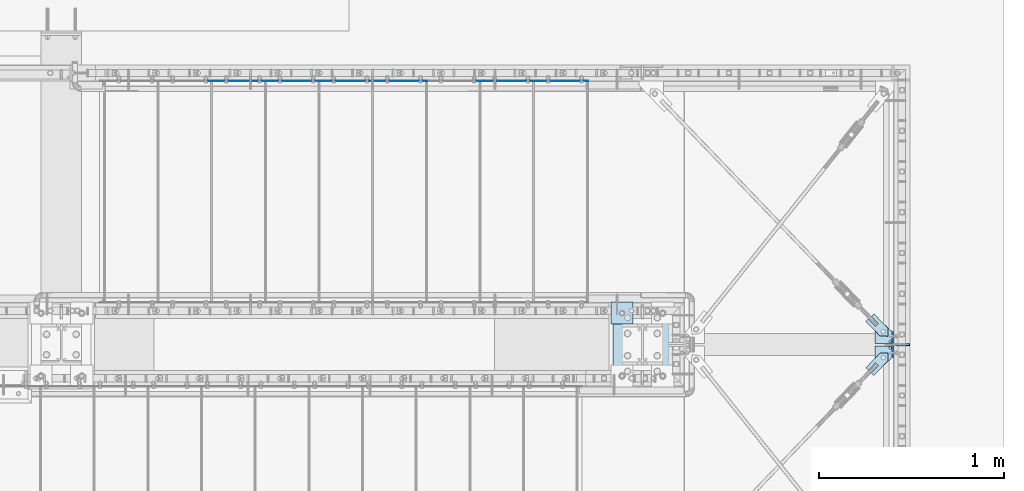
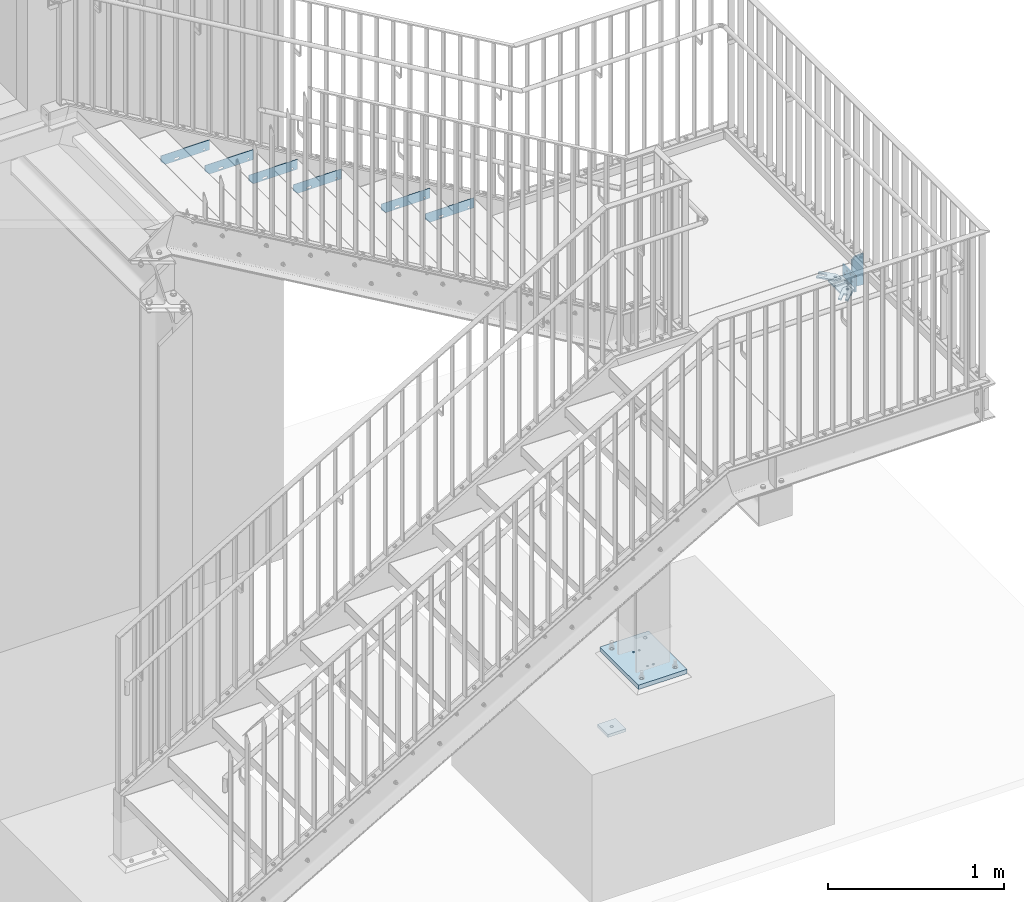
# One storey, part 25 of 145: 14 plates, 43 openings.
"""IFC2X3 building model written with IfcOpenShell, lengths in millimetres."""

from ifc_helpers import new_model, entity, si_unit, converted_unit, point, frame, frame_2d, origin, origin_with_axes, origin_2d_with_axis, place, context, project, spatial, polyline, circle_curve, line_curve, trimmed, segment, composite_curve, circle, outline, extrude, material, layer, layer_set, element, save


model = new_model("IFC2X3")

# Units and contexts
model_context = context("Model", 3, precision=1e-09, world=origin_with_axes())
ifc_project = project(units=[si_unit("LENGTHUNIT", "METRE", prefix="MILLI"), si_unit("AREAUNIT", "SQUARE_METRE"), si_unit("VOLUMEUNIT", "CUBIC_METRE"), converted_unit("PLANEANGLEUNIT", "DEGREE", entity("IfcPlaneAngleMeasure", 0.01745329), si_unit("PLANEANGLEUNIT", "RADIAN"), dimensions=[0, 0, 0, 0, 0, 0, 0])], contexts=[model_context])

# Site, building, storey
site_placement = place(None, origin_with_axes())
site = spatial("IfcSite", under=ifc_project, at=site_placement, Name="BZ1 Grund- und Mittelschule 85716 Unterschlei?heim", CompositionType="ELEMENT")
building_placement = place(site_placement, origin_with_axes())
building = spatial("IfcBuilding", under=site, at=building_placement, Name="Struktur 1", CompositionType="ELEMENT")
storey_placement = place(building_placement, origin_with_axes())
storey = spatial("IfcBuildingStorey", under=building, at=storey_placement, Name="Default Storey", CompositionType="ELEMENT", Elevation=0.0)

# Plate, openings
ifc_material = material(Name="S235JR")
ifc_layer_1 = layer(ifc_material, 10.0)
ifc_layer_set_1 = layer_set([ifc_layer_1], Name="S235JR")
plate_1_placement = place(None, frame((21560.84472732, -1695.002, 1461.1363644), z_axis=(-1.0, 0.0, 0.0), x_axis=(0.0, -1.0, 0.0)))
plate_1 = element("IfcPlate", 1, at=plate_1_placement, inside=storey, material=ifc_layer_set_1, Name="-", ObjectType="-", context=model_context, shape_type="SweptSolid", body=[
    extrude(outline(polyline([(-70.0, -57.5), (70.0, -57.5), (70.0, 57.5), (-70.0, 57.5), (-70.0, -57.5)])), origin_with_axes(), (0.0, 0.0, -1.0), 10.0),
])
opening_1_placement = place(plate_1_placement, frame((-19.5, 42.501, -10.5), z_axis=(0.0, 0.0, -1.0), x_axis=(-1.0, 0.0, 0.0)))
element("IfcOpeningElement", 2, at=opening_1_placement, cuts=plate_1, ObjectType="Opening", context=model_context, shape_type="SweptSolid", body=[
    extrude(circle(Radius=6.001, at=frame_2d((0.0, -6.001), x_axis=(1.0, 0.0))), origin(), (0.0, 0.0, -1.0), 11.0),
])
opening_2_placement = place(plate_1_placement, frame((19.5, 42.501, -10.5), z_axis=(0.0, 0.0, -1.0), x_axis=(-1.0, 0.0, 0.0)))
element("IfcOpeningElement", 3, at=opening_2_placement, cuts=plate_1, ObjectType="Opening", context=model_context, shape_type="SweptSolid", body=[
    extrude(circle(Radius=6.001, at=frame_2d((0.0, -6.001), x_axis=(1.0, 0.0))), origin(), (0.0, 0.0, -1.0), 11.0),
])
opening_3_placement = place(plate_1_placement, frame((37.999, 2.5, 0.5), z_axis=(0.0, 0.0, 1.0), x_axis=(1.0, 0.0, 0.0)))
element("IfcOpeningElement", 4, at=opening_3_placement, cuts=plate_1, ObjectType="Opening", context=model_context, shape_type="SweptSolid", body=[
    extrude(circle(Radius=7.001, at=frame_2d((7.001, 0.0), x_axis=(1.0, 0.0))), origin(), (0.0, 0.0, -1.0), 11.0),
])
opening_4_placement = place(plate_1_placement, frame((-52.001, 2.5, 0.5), z_axis=(0.0, 0.0, 1.0), x_axis=(1.0, 0.0, 0.0)))
element("IfcOpeningElement", 5, at=opening_4_placement, cuts=plate_1, ObjectType="Opening", context=model_context, shape_type="SweptSolid", body=[
    extrude(circle(Radius=7.001, at=frame_2d((7.001, 0.0), x_axis=(1.0, 0.0))), origin(), (0.0, 0.0, -1.0), 11.0),
])

plate_2_placement = place(None, frame((21461.809681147, -1528.368609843, 1433.6363644), z_axis=(0.0, 0.0, -1.0), x_axis=(0.692926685, -0.721008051, 0.0)))
plate_2 = element("IfcPlate", 6, at=plate_2_placement, inside=storey, material=ifc_layer_set_1, Name="-", ObjectType="-", context=model_context, shape_type="SweptSolid", body=[
    extrude(outline(polyline([(0.0, 0.0), (140.0, 0.0), (140.0, 60.0), (1e-09, 60.000000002), (1e-09, 40.5), (55.000000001, 40.499999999), (55.0, 19.499999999), (0.0, 19.5), (0.0, 0.0)])), origin_with_axes(), (0.0, 0.0, -1.0), 10.0),
])
opening_5_placement = place(plate_2_placement, frame((140.0, 0.0, 0.01), z_axis=(0.0, 0.0, 1.0), x_axis=(0.0, 1.0, 0.0)))
element("IfcOpeningElement", 7, at=opening_5_placement, cuts=plate_2, ObjectType="Opening", context=model_context, shape_type="SweptSolid", body=[
    extrude(outline(composite_curve([segment(trimmed(line_curve((0.0, 0.0), (1.0, 0.0), 30.0), [point((0.0, 0.0))], [point((30.0, 0.0))], True, "CARTESIAN"), True, "CONTINUOUS"), segment(trimmed(circle_curve(frame_2d((30.0, 30.0), x_axis=(-1.0, 0.0)), 30.0), [point((30.0, 0.0))], [point((0.0, 30.0))], False, "CARTESIAN"), True, "CONTINUOUS"), segment(trimmed(line_curve((0.0, 30.0), (0.0, -1.0), 30.0), [point((0.0, 30.0))], [point((0.0, 0.0))], True, "CARTESIAN"), True, "CONTINUOUS")], self_intersect=False)), origin(), (0.0, 0.0, -1.0), 10.02),
])
opening_6_placement = place(plate_2_placement, frame((140.0, 60.0, 0.01), z_axis=(0.0, 0.0, 1.0), x_axis=(-1.0, 0.0, 0.0)))
element("IfcOpeningElement", 8, at=opening_6_placement, cuts=plate_2, ObjectType="Opening", context=model_context, shape_type="SweptSolid", body=[
    extrude(outline(composite_curve([segment(trimmed(line_curve((0.0, 0.0), (1.0, 0.0), 30.0), [point((0.0, 0.0))], [point((30.0, 0.0))], True, "CARTESIAN"), True, "CONTINUOUS"), segment(trimmed(circle_curve(frame_2d((30.0, 30.0), x_axis=(-1.0, 0.0)), 30.0), [point((30.0, 0.0))], [point((0.0, 30.0))], False, "CARTESIAN"), True, "CONTINUOUS"), segment(trimmed(line_curve((0.0, 30.0), (0.0, -1.0), 30.0), [point((0.0, 30.0))], [point((0.0, 0.0))], True, "CARTESIAN"), True, "CONTINUOUS")], self_intersect=False)), origin(), (0.0, 0.0, -1.0), 10.02),
])
opening_7_placement = place(plate_2_placement, frame((114.001, 29.999999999, 0.5), z_axis=(0.0, 0.0, 1.0), x_axis=(1.0, 0.0, 0.0)))
element("IfcOpeningElement", 9, at=opening_7_placement, cuts=plate_2, ObjectType="Opening", context=model_context, shape_type="SweptSolid", body=[
    extrude(circle(Radius=9.001, at=frame_2d((-9.001, 0.0), x_axis=(1.0, 0.0))), origin(), (0.0, 0.0, -1.0), 11.0),
])

plate_3_placement = place(None, frame((21474.319108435, -1698.356588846, 1433.6363644), z_axis=(0.0, 0.0, 1.0), x_axis=(0.995683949, 0.092808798, 0.0)))
plate_3 = element("IfcPlate", 10, at=plate_3_placement, inside=storey, material=ifc_layer_set_1, Name="-", ObjectType="-", context=model_context, shape_type="SweptSolid", body=[
    extrude(outline(polyline([(-6.319093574, 10.486315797), (87.066762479, 1.781717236), (92.960121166, 65.007648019), (46.932350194, 115.660878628), (0.0, 78.279673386), (-6.319093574, 10.486315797)])), origin_with_axes(), (0.0, 0.0, -1.0), 10.0),
])
opening_8_placement = place(plate_3_placement, frame((50.879681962, 62.552436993, -10.5), z_axis=(0.0, 0.0, -1.0), x_axis=(-1.0, 0.0, 0.0)))
element("IfcOpeningElement", 11, at=opening_8_placement, cuts=plate_3, ObjectType="Opening", context=model_context, shape_type="SweptSolid", body=[
    extrude(circle(Radius=9.001, at=frame_2d((5.607803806, 7.040634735), x_axis=(1.0, 0.0))), origin(), (0.0, 0.0, -1.0), 11.0),
])
opening_9_placement = place(plate_3_placement, frame((87.066762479, 1.781717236, -10.5), z_axis=(0.0, 0.0, 1.0), x_axis=(0.995683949, -0.092808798, 0.0)))
element("IfcOpeningElement", 12, at=opening_9_placement, cuts=plate_3, ObjectType="Opening", context=model_context, shape_type="SweptSolid", body=[
    extrude(circle(Radius=6.001, at=frame_2d((-11.0, 11.0), x_axis=(1.0, 0.0))), origin(), (0.0, 0.0, 1.0), 11.0),
])

plate_4_placement = place(None, frame((21461.809681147, -1861.635390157, 1433.6363644), z_axis=(0.0, 0.0, 1.0), x_axis=(0.692926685, 0.721008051, 0.0)))
plate_4 = element("IfcPlate", 13, at=plate_4_placement, inside=storey, material=ifc_layer_set_1, Name="-", ObjectType="-", context=model_context, shape_type="SweptSolid", body=[
    extrude(outline(polyline([(0.0, 0.0), (140.0, 0.0), (140.0, 60.0), (1e-09, 60.000000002), (1e-09, 40.5), (55.000000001, 40.499999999), (55.0, 19.499999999), (0.0, 19.5), (0.0, 0.0)])), origin_with_axes(), (0.0, 0.0, 1.0), 10.0),
])
opening_10_placement = place(plate_4_placement, frame((0.0, 0.0, -0.01), z_axis=(0.0, 0.0, 1.0), x_axis=(1.0, 0.0, 0.0)))
element("IfcOpeningElement", 14, at=opening_10_placement, cuts=plate_4, ObjectType="Opening", context=model_context, shape_type="SweptSolid", body=[
    extrude(outline(composite_curve([segment(trimmed(line_curve((140.0, 0.0), (0.0, 1.0), 30.0), [point((140.0, 0.0))], [point((140.0, 30.0))], True, "CARTESIAN"), True, "CONTINUOUS"), segment(trimmed(circle_curve(frame_2d((110.0, 30.0), x_axis=(-1.0, 0.0)), 30.0), [point((140.0, 30.0))], [point((110.0, 0.0))], False, "CARTESIAN"), True, "CONTINUOUS"), segment(trimmed(line_curve((110.0, 0.0), (1.0, 0.0), 30.0), [point((110.0, 0.0))], [point((140.0, 0.0))], True, "CARTESIAN"), True, "CONTINUOUS")], self_intersect=False)), origin(), (0.0, 0.0, 1.0), 10.02),
])
opening_11_placement = place(plate_4_placement, frame((0.0, 0.0, -0.01), z_axis=(0.0, 0.0, 1.0), x_axis=(1.0, 0.0, 0.0)))
element("IfcOpeningElement", 15, at=opening_11_placement, cuts=plate_4, ObjectType="Opening", context=model_context, shape_type="SweptSolid", body=[
    extrude(outline(composite_curve([segment(trimmed(line_curve((140.0, 60.0), (-1.0, 0.0), 30.0), [point((140.0, 60.0))], [point((110.0, 60.0))], True, "CARTESIAN"), True, "CONTINUOUS"), segment(trimmed(circle_curve(frame_2d((110.0, 30.0), x_axis=(-1.0, 0.0)), 30.0), [point((110.0, 60.0))], [point((140.0, 30.0))], False, "CARTESIAN"), True, "CONTINUOUS"), segment(trimmed(line_curve((140.0, 30.0), (0.0, 1.0), 30.0), [point((140.0, 30.0))], [point((140.0, 60.0))], True, "CARTESIAN"), True, "CONTINUOUS")], self_intersect=False)), origin(), (0.0, 0.0, 1.0), 10.02),
])
opening_12_placement = place(plate_4_placement, frame((105.0, 29.999999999, -0.5), z_axis=(0.0, 0.0, 1.0), x_axis=(-1.0, 0.0, 0.0)))
element("IfcOpeningElement", 16, at=opening_12_placement, cuts=plate_4, ObjectType="Opening", context=model_context, shape_type="SweptSolid", body=[
    extrude(circle(Radius=9.001, at=origin_2d_with_axis()), origin(), (0.0, 0.0, 1.0), 11.0),
])

plate_5_placement = place(None, frame((21474.319108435, -1691.647411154, 1433.6363644), z_axis=(0.0, 0.0, -1.0), x_axis=(0.995683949, -0.092808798, 0.0)))
plate_5 = element("IfcPlate", 17, at=plate_5_placement, inside=storey, material=ifc_layer_set_1, Name="-", ObjectType="-", context=model_context, shape_type="SweptSolid", body=[
    extrude(outline(polyline([(-6.319093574, 10.486315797), (87.066762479, 1.781717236), (92.960121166, 65.007648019), (46.932350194, 115.660878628), (0.0, 78.279673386), (-6.319093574, 10.486315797)])), origin_with_axes(), (0.0, 0.0, 1.0), 10.0),
])
opening_13_placement = place(plate_5_placement, frame((71.160036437, 14.312083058, 10.5), z_axis=(0.0, 0.0, 1.0), x_axis=(1.0, 0.0, 0.0)))
element("IfcOpeningElement", 18, at=opening_13_placement, cuts=plate_5, ObjectType="Opening", context=model_context, shape_type="SweptSolid", body=[
    extrude(circle(Radius=6.001, at=frame_2d((5.97509938, -0.556945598), x_axis=(1.0, 0.0))), origin(), (0.0, 0.0, -1.0), 11.0),
])
opening_14_placement = place(plate_5_placement, frame((45.271878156, 69.593071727, 10.5), z_axis=(0.0, 0.0, -1.0), x_axis=(-0.623020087, 0.782205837, 0.0)))
element("IfcOpeningElement", 19, at=opening_14_placement, cuts=plate_5, ObjectType="Opening", context=model_context, shape_type="SweptSolid", body=[
    extrude(circle(Radius=9.001, at=origin_2d_with_axis()), origin(), (0.0, 0.0, 1.0), 11.0),
])

plate_6_placement = place(None, frame((21655.34472732, -1700.002, 1384.781098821), z_axis=(0.0, 1.0, 0.0), x_axis=(-0.996815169, 0.0, 0.079746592)))
plate_6 = element("IfcPlate", 20, at=plate_6_placement, inside=storey, material=ifc_layer_set_1, Name="Stiffener#1", ObjectType="Stiffener#1", context=model_context, shape_type="SweptSolid", body=[
    extrude(outline(polyline([(0.0, 0.0), (75.239625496, 0.0), (91.644322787, 205.05517107), (17.361672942, 217.017159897), (0.0, 0.0)])), origin_with_axes(), (0.0, 0.0, 1.0), 10.0),
])
opening_15_placement = place(plate_6_placement, frame((0.0, 0.0, -0.01), z_axis=(0.0, 0.0, 1.0), x_axis=(1.0, 0.0, 0.0)))
element("IfcOpeningElement", 21, at=opening_15_placement, cuts=plate_6, ObjectType="Opening", context=model_context, shape_type="SweptSolid", body=[
    extrude(outline(composite_curve([segment(trimmed(line_curve((91.644322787, 205.05517107), (-0.987280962, 0.158985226), 15.0), [point((91.644322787, 205.05517107))], [point((76.835108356, 207.439949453))], True, "CARTESIAN"), True, "CONTINUOUS"), segment(trimmed(circle_curve(frame_2d((91.644322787, 205.05517107), x_axis=(1.0, 0.0)), 15.0), [point((76.835108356, 207.439949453))], [point((90.448123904, 190.102943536))], True, "CARTESIAN"), True, "CONTINUOUS"), segment(trimmed(line_curve((90.448123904, 190.102943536), (0.079746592, 0.996815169), 15.0), [point((90.448123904, 190.102943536))], [point((91.644322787, 205.05517107))], True, "CARTESIAN"), True, "CONTINUOUS")], self_intersect=False)), origin(), (0.0, 0.0, 1.0), 10.02),
])
opening_16_placement = place(plate_6_placement, frame((0.0, 0.0, -0.01), z_axis=(0.0, 0.0, 1.0), x_axis=(1.0, 0.0, 0.0)))
element("IfcOpeningElement", 22, at=opening_16_placement, cuts=plate_6, ObjectType="Opening", context=model_context, shape_type="SweptSolid", body=[
    extrude(outline(composite_curve([segment(trimmed(line_curve((75.239625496, 0.0), (0.079746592, 0.996815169), 15.0), [point((75.239625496, 0.0))], [point((76.435824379, 14.952227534))], True, "CARTESIAN"), True, "CONTINUOUS"), segment(trimmed(circle_curve(frame_2d((75.239625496, 0.0), x_axis=(1.0, 0.0)), 15.0), [point((76.435824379, 14.952227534))], [point((60.239625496, 0.0))], True, "CARTESIAN"), True, "CONTINUOUS"), segment(trimmed(line_curve((60.239625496, 0.0), (1.0, 0.0), 15.0), [point((60.239625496, 0.0))], [point((75.239625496, 0.0))], True, "CARTESIAN"), True, "CONTINUOUS")], self_intersect=False)), origin(), (0.0, 0.0, 1.0), 10.02),
])

ifc_layer_2 = layer(ifc_material, 3.0)
ifc_layer_set_2 = layer_set([ifc_layer_2], Name="S235JR")
plate_7_placement = place(None, frame((18017.1419848, -273.002, 2709.090909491), z_axis=(0.0, 1.0, 0.0), x_axis=(0.0, 0.0, -1.0)))
plate_7 = element("IfcPlate", 23, at=plate_7_placement, inside=storey, material=ifc_layer_set_2, Name="-", ObjectType="-", context=model_context, shape_type="SweptSolid", body=[
    extrude(outline(polyline([(-35.0, -160.0), (35.0, -160.0), (35.0, 160.0), (-35.0, 160.0), (-35.0, -160.0)])), origin_with_axes(), (0.0, 0.0, 1.0), 3.0),
])
opening_17_placement = place(plate_7_placement, frame((0.0, 7.5, -0.001), z_axis=(0.0, 0.0, 1.0), x_axis=(1.0, 0.0, 0.0)))
element("IfcOpeningElement", 24, at=opening_17_placement, cuts=plate_7, ObjectType="Opening", context=model_context, shape_type="SweptSolid", body=[
    extrude(outline(polyline([(5.0, 152.5), (35.0, 122.5), (35.0, 152.5), (5.0, 152.5)])), origin(), (0.0, 0.0, 1.0), 3.002),
])
opening_18_placement = place(plate_7_placement, frame((20.0, 55.0, 3.5), z_axis=(0.0, 0.0, -1.0), x_axis=(-1.0, 0.0, 0.0)))
element("IfcOpeningElement", 25, at=opening_18_placement, cuts=plate_7, ObjectType="Opening", context=model_context, shape_type="SweptSolid", body=[
    extrude(outline(composite_curve([segment(trimmed(line_curve((6.501, -9.5), (0.0, 1.0), 19.0), [point((6.501, -9.5))], [point((6.501, 9.5))], True, "CARTESIAN"), True, "CONTINUOUS"), segment(trimmed(circle_curve(frame_2d((0.0, 9.5), x_axis=(1.0, 0.0)), 6.501), [point((6.501, 9.5))], [point((-6.501, 9.5))], True, "CARTESIAN"), True, "CONTINUOUS"), segment(trimmed(line_curve((-6.501, 9.5), (0.0, -1.0), 19.0), [point((-6.501, 9.5))], [point((-6.501, -9.5))], True, "CARTESIAN"), True, "CONTINUOUS"), segment(trimmed(circle_curve(frame_2d((0.0, -9.5), x_axis=(1.0, 0.0)), 6.501), [point((-6.501, -9.5))], [point((6.501, -9.5))], True, "CARTESIAN"), True, "CONTINUOUS")], self_intersect=False)), origin(), (0.0, 0.0, 1.0), 4.0),
])
opening_19_placement = place(plate_7_placement, frame((20.0, -125.0, 3.5), z_axis=(0.0, 0.0, -1.0), x_axis=(-1.0, 0.0, 0.0)))
element("IfcOpeningElement", 26, at=opening_19_placement, cuts=plate_7, ObjectType="Opening", context=model_context, shape_type="SweptSolid", body=[
    extrude(circle(Radius=6.501, at=origin_2d_with_axis()), origin(), (0.0, 0.0, 1.0), 4.0),
])

plate_8_placement = place(None, frame((18887.1419848, -273.002, 2203.181818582), z_axis=(0.0, 1.0, 0.0), x_axis=(0.0, 0.0, -1.0)))
plate_8 = element("IfcPlate", 27, at=plate_8_placement, inside=storey, material=ifc_layer_set_2, Name="-", ObjectType="-", context=model_context, shape_type="SweptSolid", body=[
    extrude(outline(polyline([(-35.0, -160.0), (35.0, -160.0), (35.0, 160.0), (-35.0, 160.0), (-35.0, -160.0)])), origin_with_axes(), (0.0, 0.0, 1.0), 3.0),
])
opening_20_placement = place(plate_8_placement, frame((0.0, 7.5, -0.001), z_axis=(0.0, 0.0, 1.0), x_axis=(1.0, 0.0, 0.0)))
element("IfcOpeningElement", 28, at=opening_20_placement, cuts=plate_8, ObjectType="Opening", context=model_context, shape_type="SweptSolid", body=[
    extrude(outline(polyline([(5.0, 152.5), (35.0, 122.5), (35.0, 152.5), (5.0, 152.5)])), origin(), (0.0, 0.0, 1.0), 3.002),
])
opening_21_placement = place(plate_8_placement, frame((20.0, -125.0, 3.5), z_axis=(0.0, 0.0, -1.0), x_axis=(-1.0, 0.0, 0.0)))
element("IfcOpeningElement", 29, at=opening_21_placement, cuts=plate_8, ObjectType="Opening", context=model_context, shape_type="SweptSolid", body=[
    extrude(circle(Radius=6.501, at=origin_2d_with_axis()), origin(), (0.0, 0.0, 1.0), 4.0),
])
opening_22_placement = place(plate_8_placement, frame((20.0, 55.0, 3.5), z_axis=(0.0, 0.0, -1.0), x_axis=(-1.0, 0.0, 0.0)))
element("IfcOpeningElement", 30, at=opening_22_placement, cuts=plate_8, ObjectType="Opening", context=model_context, shape_type="SweptSolid", body=[
    extrude(outline(composite_curve([segment(trimmed(line_curve((6.501, -9.5), (0.0, 1.0), 19.0), [point((6.501, -9.5))], [point((6.501, 9.5))], True, "CARTESIAN"), True, "CONTINUOUS"), segment(trimmed(circle_curve(frame_2d((0.0, 9.5), x_axis=(1.0, 0.0)), 6.501), [point((6.501, 9.5))], [point((-6.501, 9.5))], True, "CARTESIAN"), True, "CONTINUOUS"), segment(trimmed(line_curve((-6.501, 9.5), (0.0, -1.0), 19.0), [point((-6.501, 9.5))], [point((-6.501, -9.5))], True, "CARTESIAN"), True, "CONTINUOUS"), segment(trimmed(circle_curve(frame_2d((0.0, -9.5), x_axis=(1.0, 0.0)), 6.501), [point((-6.501, -9.5))], [point((6.501, -9.5))], True, "CARTESIAN"), True, "CONTINUOUS")], self_intersect=False)), origin(), (0.0, 0.0, 1.0), 4.0),
])

plate_9_placement = place(None, frame((18597.1419848, -273.002, 2371.818182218), z_axis=(0.0, 1.0, 0.0), x_axis=(0.0, 0.0, -1.0)))
plate_9 = element("IfcPlate", 31, at=plate_9_placement, inside=storey, material=ifc_layer_set_2, Name="-", ObjectType="-", context=model_context, shape_type="SweptSolid", body=[
    extrude(outline(polyline([(-35.0, -160.0), (35.0, -160.0), (35.0, 160.0), (-35.0, 160.0), (-35.0, -160.0)])), origin_with_axes(), (0.0, 0.0, 1.0), 3.0),
])
opening_23_placement = place(plate_9_placement, frame((0.0, 7.5, -0.001), z_axis=(0.0, 0.0, 1.0), x_axis=(1.0, 0.0, 0.0)))
element("IfcOpeningElement", 32, at=opening_23_placement, cuts=plate_9, ObjectType="Opening", context=model_context, shape_type="SweptSolid", body=[
    extrude(outline(polyline([(5.0, 152.5), (35.0, 122.5), (35.0, 152.5), (5.0, 152.5)])), origin(), (0.0, 0.0, 1.0), 3.002),
])
opening_24_placement = place(plate_9_placement, frame((20.0, 55.0, 3.5), z_axis=(0.0, 0.0, -1.0), x_axis=(-1.0, 0.0, 0.0)))
element("IfcOpeningElement", 33, at=opening_24_placement, cuts=plate_9, ObjectType="Opening", context=model_context, shape_type="SweptSolid", body=[
    extrude(outline(composite_curve([segment(trimmed(line_curve((6.501, -9.5), (0.0, 1.0), 19.0), [point((6.501, -9.5))], [point((6.501, 9.5))], True, "CARTESIAN"), True, "CONTINUOUS"), segment(trimmed(circle_curve(frame_2d((0.0, 9.5), x_axis=(1.0, 0.0)), 6.501), [point((6.501, 9.5))], [point((-6.501, 9.5))], True, "CARTESIAN"), True, "CONTINUOUS"), segment(trimmed(line_curve((-6.501, 9.5), (0.0, -1.0), 19.0), [point((-6.501, 9.5))], [point((-6.501, -9.5))], True, "CARTESIAN"), True, "CONTINUOUS"), segment(trimmed(circle_curve(frame_2d((0.0, -9.5), x_axis=(1.0, 0.0)), 6.501), [point((-6.501, -9.5))], [point((6.501, -9.5))], True, "CARTESIAN"), True, "CONTINUOUS")], self_intersect=False)), origin(), (0.0, 0.0, 1.0), 4.0),
])
opening_25_placement = place(plate_9_placement, frame((20.0, -125.0, 3.5), z_axis=(0.0, 0.0, -1.0), x_axis=(-1.0, 0.0, 0.0)))
element("IfcOpeningElement", 34, at=opening_25_placement, cuts=plate_9, ObjectType="Opening", context=model_context, shape_type="SweptSolid", body=[
    extrude(circle(Radius=6.501, at=origin_2d_with_axis()), origin(), (0.0, 0.0, 1.0), 4.0),
])

plate_10_placement = place(None, frame((18307.1419848, -273.002, 2540.454545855), z_axis=(0.0, 1.0, 0.0), x_axis=(0.0, 0.0, -1.0)))
plate_10 = element("IfcPlate", 35, at=plate_10_placement, inside=storey, material=ifc_layer_set_2, Name="-", ObjectType="-", context=model_context, shape_type="SweptSolid", body=[
    extrude(outline(polyline([(-35.0, -160.0), (35.0, -160.0), (35.0, 160.0), (-35.0, 160.0), (-35.0, -160.0)])), origin_with_axes(), (0.0, 0.0, 1.0), 3.0),
])
opening_26_placement = place(plate_10_placement, frame((0.0, 7.5, -0.001), z_axis=(0.0, 0.0, 1.0), x_axis=(1.0, 0.0, 0.0)))
element("IfcOpeningElement", 36, at=opening_26_placement, cuts=plate_10, ObjectType="Opening", context=model_context, shape_type="SweptSolid", body=[
    extrude(outline(polyline([(5.0, 152.5), (35.0, 122.5), (35.0, 152.5), (5.0, 152.5)])), origin(), (0.0, 0.0, 1.0), 3.002),
])
opening_27_placement = place(plate_10_placement, frame((20.0, 55.0, 3.5), z_axis=(0.0, 0.0, -1.0), x_axis=(-1.0, 0.0, 0.0)))
element("IfcOpeningElement", 37, at=opening_27_placement, cuts=plate_10, ObjectType="Opening", context=model_context, shape_type="SweptSolid", body=[
    extrude(outline(composite_curve([segment(trimmed(line_curve((6.501, -9.5), (0.0, 1.0), 19.0), [point((6.501, -9.5))], [point((6.501, 9.5))], True, "CARTESIAN"), True, "CONTINUOUS"), segment(trimmed(circle_curve(frame_2d((0.0, 9.5), x_axis=(1.0, 0.0)), 6.501), [point((6.501, 9.5))], [point((-6.501, 9.5))], True, "CARTESIAN"), True, "CONTINUOUS"), segment(trimmed(line_curve((-6.501, 9.5), (0.0, -1.0), 19.0), [point((-6.501, 9.5))], [point((-6.501, -9.5))], True, "CARTESIAN"), True, "CONTINUOUS"), segment(trimmed(circle_curve(frame_2d((0.0, -9.5), x_axis=(1.0, 0.0)), 6.501), [point((-6.501, -9.5))], [point((6.501, -9.5))], True, "CARTESIAN"), True, "CONTINUOUS")], self_intersect=False)), origin(), (0.0, 0.0, 1.0), 4.0),
])
opening_28_placement = place(plate_10_placement, frame((20.0, -125.0, 3.5), z_axis=(0.0, 0.0, -1.0), x_axis=(-1.0, 0.0, 0.0)))
element("IfcOpeningElement", 38, at=opening_28_placement, cuts=plate_10, ObjectType="Opening", context=model_context, shape_type="SweptSolid", body=[
    extrude(circle(Radius=6.501, at=origin_2d_with_axis()), origin(), (0.0, 0.0, 1.0), 4.0),
])

plate_11_placement = place(None, frame((19757.1419848, -273.002, 1697.272727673), z_axis=(0.0, 1.0, 0.0), x_axis=(0.0, 0.0, -1.0)))
plate_11 = element("IfcPlate", 39, at=plate_11_placement, inside=storey, material=ifc_layer_set_2, Name="-", ObjectType="-", context=model_context, shape_type="SweptSolid", body=[
    extrude(outline(polyline([(-35.0, -160.0), (35.0, -160.0), (35.0, 160.0), (-35.0, 160.0), (-35.0, -160.0)])), origin_with_axes(), (0.0, 0.0, 1.0), 3.0),
])
opening_29_placement = place(plate_11_placement, frame((0.0, 7.5, -0.001), z_axis=(0.0, 0.0, 1.0), x_axis=(1.0, 0.0, 0.0)))
element("IfcOpeningElement", 40, at=opening_29_placement, cuts=plate_11, ObjectType="Opening", context=model_context, shape_type="SweptSolid", body=[
    extrude(outline(polyline([(5.0, 152.5), (35.0, 122.5), (35.0, 152.5), (5.0, 152.5)])), origin(), (0.0, 0.0, 1.0), 3.002),
])
opening_30_placement = place(plate_11_placement, frame((20.0, -125.0, 3.5), z_axis=(0.0, 0.0, -1.0), x_axis=(-1.0, 0.0, 0.0)))
element("IfcOpeningElement", 41, at=opening_30_placement, cuts=plate_11, ObjectType="Opening", context=model_context, shape_type="SweptSolid", body=[
    extrude(circle(Radius=6.501, at=origin_2d_with_axis()), origin(), (0.0, 0.0, 1.0), 4.0),
])
opening_31_placement = place(plate_11_placement, frame((20.0, 55.0, 3.5), z_axis=(0.0, 0.0, -1.0), x_axis=(-1.0, 0.0, 0.0)))
element("IfcOpeningElement", 42, at=opening_31_placement, cuts=plate_11, ObjectType="Opening", context=model_context, shape_type="SweptSolid", body=[
    extrude(outline(composite_curve([segment(trimmed(line_curve((6.501, -9.5), (0.0, 1.0), 19.0), [point((6.501, -9.5))], [point((6.501, 9.5))], True, "CARTESIAN"), True, "CONTINUOUS"), segment(trimmed(circle_curve(frame_2d((0.0, 9.5), x_axis=(1.0, 0.0)), 6.501), [point((6.501, 9.5))], [point((-6.501, 9.5))], True, "CARTESIAN"), True, "CONTINUOUS"), segment(trimmed(line_curve((-6.501, 9.5), (0.0, -1.0), 19.0), [point((-6.501, 9.5))], [point((-6.501, -9.5))], True, "CARTESIAN"), True, "CONTINUOUS"), segment(trimmed(circle_curve(frame_2d((0.0, -9.5), x_axis=(1.0, 0.0)), 6.501), [point((-6.501, -9.5))], [point((6.501, -9.5))], True, "CARTESIAN"), True, "CONTINUOUS")], self_intersect=False)), origin(), (0.0, 0.0, 1.0), 4.0),
])

plate_12_placement = place(None, frame((19467.1419848, -273.002, 1865.909091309), z_axis=(0.0, 1.0, 0.0), x_axis=(0.0, 0.0, -1.0)))
plate_12 = element("IfcPlate", 43, at=plate_12_placement, inside=storey, material=ifc_layer_set_2, Name="-", ObjectType="-", context=model_context, shape_type="SweptSolid", body=[
    extrude(outline(polyline([(-35.0, -160.0), (35.0, -160.0), (35.0, 160.0), (-35.0, 160.0), (-35.0, -160.0)])), origin_with_axes(), (0.0, 0.0, 1.0), 3.0),
])
opening_32_placement = place(plate_12_placement, frame((0.0, 7.5, -0.001), z_axis=(0.0, 0.0, 1.0), x_axis=(1.0, 0.0, 0.0)))
element("IfcOpeningElement", 44, at=opening_32_placement, cuts=plate_12, ObjectType="Opening", context=model_context, shape_type="SweptSolid", body=[
    extrude(outline(polyline([(5.0, 152.5), (35.0, 122.5), (35.0, 152.5), (5.0, 152.5)])), origin(), (0.0, 0.0, 1.0), 3.002),
])
opening_33_placement = place(plate_12_placement, frame((20.0, -125.0, 3.5), z_axis=(0.0, 0.0, -1.0), x_axis=(-1.0, 0.0, 0.0)))
element("IfcOpeningElement", 45, at=opening_33_placement, cuts=plate_12, ObjectType="Opening", context=model_context, shape_type="SweptSolid", body=[
    extrude(circle(Radius=6.501, at=origin_2d_with_axis()), origin(), (0.0, 0.0, 1.0), 4.0),
])
opening_34_placement = place(plate_12_placement, frame((20.0, 55.0, 3.5), z_axis=(0.0, 0.0, -1.0), x_axis=(-1.0, 0.0, 0.0)))
element("IfcOpeningElement", 46, at=opening_34_placement, cuts=plate_12, ObjectType="Opening", context=model_context, shape_type="SweptSolid", body=[
    extrude(outline(composite_curve([segment(trimmed(line_curve((6.501, -9.5), (0.0, 1.0), 19.0), [point((6.501, -9.5))], [point((6.501, 9.5))], True, "CARTESIAN"), True, "CONTINUOUS"), segment(trimmed(circle_curve(frame_2d((0.0, 9.5), x_axis=(1.0, 0.0)), 6.501), [point((6.501, 9.5))], [point((-6.501, 9.5))], True, "CARTESIAN"), True, "CONTINUOUS"), segment(trimmed(line_curve((-6.501, 9.5), (0.0, -1.0), 19.0), [point((-6.501, 9.5))], [point((-6.501, -9.5))], True, "CARTESIAN"), True, "CONTINUOUS"), segment(trimmed(circle_curve(frame_2d((0.0, -9.5), x_axis=(1.0, 0.0)), 6.501), [point((-6.501, -9.5))], [point((6.501, -9.5))], True, "CARTESIAN"), True, "CONTINUOUS")], self_intersect=False)), origin(), (0.0, 0.0, 1.0), 4.0),
])

ifc_layer_3 = layer(ifc_material, 30.0)
ifc_layer_set_3 = layer_set([ifc_layer_3], Name="S235JR")
plate_13_placement = place(None, frame((20210.84472732, -1695.002, -740.0), z_axis=(0.0, 0.0, 1.0), x_axis=(-1.0, 0.0, 0.0)))
plate_13 = element("IfcPlate", 47, at=plate_13_placement, inside=storey, material=ifc_layer_set_3, Name="-", ObjectType="-", context=model_context, shape_type="SweptSolid", body=[
    extrude(outline(polyline([(-160.0, -220.0), (160.0, -220.0), (160.0, 220.0), (-160.0, 220.0), (-160.0, -220.0)])), origin_with_axes(), (0.0, 0.0, 1.0), 30.0),
])
opening_35_placement = place(plate_13_placement, frame((0.0, 0.0, -0.5), z_axis=(0.0, 0.0, 1.0), x_axis=(1.0, 0.0, 0.0)))
element("IfcOpeningElement", 48, at=opening_35_placement, cuts=plate_13, ObjectType="Opening", context=model_context, shape_type="SweptSolid", body=[
    extrude(circle(Radius=11.501, at=frame_2d((110.0, 170.0), x_axis=(1.0, 0.0))), origin(), (0.0, 0.0, 1.0), 31.0),
])
opening_36_placement = place(plate_13_placement, frame((0.0, 0.0, -0.5), z_axis=(0.0, 0.0, 1.0), x_axis=(1.0, 0.0, 0.0)))
element("IfcOpeningElement", 49, at=opening_36_placement, cuts=plate_13, ObjectType="Opening", context=model_context, shape_type="SweptSolid", body=[
    extrude(circle(Radius=11.501, at=frame_2d((-110.0, 170.0), x_axis=(1.0, 0.0))), origin(), (0.0, 0.0, 1.0), 31.0),
])
opening_37_placement = place(plate_13_placement, frame((0.0, 0.0, -0.5), z_axis=(0.0, 0.0, 1.0), x_axis=(1.0, 0.0, 0.0)))
element("IfcOpeningElement", 50, at=opening_37_placement, cuts=plate_13, ObjectType="Opening", context=model_context, shape_type="SweptSolid", body=[
    extrude(circle(Radius=11.501, at=frame_2d((110.0, -170.0), x_axis=(1.0, 0.0))), origin(), (0.0, 0.0, 1.0), 31.0),
])
opening_38_placement = place(plate_13_placement, frame((0.0, 0.0, -0.5), z_axis=(0.0, 0.0, 1.0), x_axis=(1.0, 0.0, 0.0)))
element("IfcOpeningElement", 51, at=opening_38_placement, cuts=plate_13, ObjectType="Opening", context=model_context, shape_type="SweptSolid", body=[
    extrude(circle(Radius=11.501, at=frame_2d((-110.0, -170.0), x_axis=(1.0, 0.0))), origin(), (0.0, 0.0, 1.0), 31.0),
])
opening_39_placement = place(plate_13_placement, frame((-22.75, -76.0, -0.5), z_axis=(0.0, 0.0, 1.0), x_axis=(0.0, 1.0, 0.0)))
element("IfcOpeningElement", 52, at=opening_39_placement, cuts=plate_13, ObjectType="Opening", context=model_context, shape_type="SweptSolid", body=[
    extrude(circle(Radius=7.001, at=frame_2d((-4.0, -4.0), x_axis=(1.0, 0.0))), origin(), (0.0, 0.0, 1.0), 31.0),
])
opening_40_placement = place(plate_13_placement, frame((-22.75, 76.0, -0.5), z_axis=(0.0, 0.0, 1.0), x_axis=(0.0, 1.0, 0.0)))
element("IfcOpeningElement", 53, at=opening_40_placement, cuts=plate_13, ObjectType="Opening", context=model_context, shape_type="SweptSolid", body=[
    extrude(circle(Radius=7.001, at=frame_2d((4.0, -4.0), x_axis=(1.0, 0.0))), origin(), (0.0, 0.0, 1.0), 31.0),
])
opening_41_placement = place(plate_13_placement, frame((22.75, 76.0, -0.5), z_axis=(0.0, 0.0, 1.0), x_axis=(0.0, 1.0, 0.0)))
element("IfcOpeningElement", 54, at=opening_41_placement, cuts=plate_13, ObjectType="Opening", context=model_context, shape_type="SweptSolid", body=[
    extrude(circle(Radius=7.001, at=frame_2d((4.0, 4.0), x_axis=(1.0, 0.0))), origin(), (0.0, 0.0, 1.0), 31.0),
])
opening_42_placement = place(plate_13_placement, frame((22.75, -76.0, -0.5), z_axis=(0.0, 0.0, 1.0), x_axis=(0.0, 1.0, 0.0)))
element("IfcOpeningElement", 55, at=opening_42_placement, cuts=plate_13, ObjectType="Opening", context=model_context, shape_type="SweptSolid", body=[
    extrude(circle(Radius=7.001, at=frame_2d((-4.0, 4.0), x_axis=(1.0, 0.0))), origin(), (0.0, 0.0, 1.0), 31.0),
])

# Plate, opening
ifc_layer_4 = layer(ifc_material, 20.0)
ifc_layer_set_4 = layer_set([ifc_layer_4], Name="S235JR")
plate_14_placement = place(None, frame((20100.844727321, -1525.002, -1270.0), z_axis=(0.0, 0.0, 1.0), x_axis=(-1.0, 0.0, 0.0)))
plate_14 = element("IfcPlate", 56, at=plate_14_placement, inside=storey, material=ifc_layer_set_4, Name="-", ObjectType="-", context=model_context, shape_type="SweptSolid", body=[
    extrude(outline(polyline([(-60.0, -60.0), (60.0, -60.0), (60.0, 60.0), (-60.0, 60.0), (-60.0, -60.0)])), origin_with_axes(), (0.0, 0.0, 1.0), 20.0),
])
opening_43_placement = place(plate_14_placement, frame((0.0, 0.0, -0.5), z_axis=(0.0, 0.0, 1.0), x_axis=(1.0, 0.0, 0.0)))
element("IfcOpeningElement", 57, at=opening_43_placement, cuts=plate_14, ObjectType="Opening", context=model_context, shape_type="SweptSolid", body=[
    extrude(circle(Radius=11.001, at=origin_2d_with_axis()), origin(), (0.0, 0.0, 1.0), 21.0),
])

save(model, "model.ifc")
